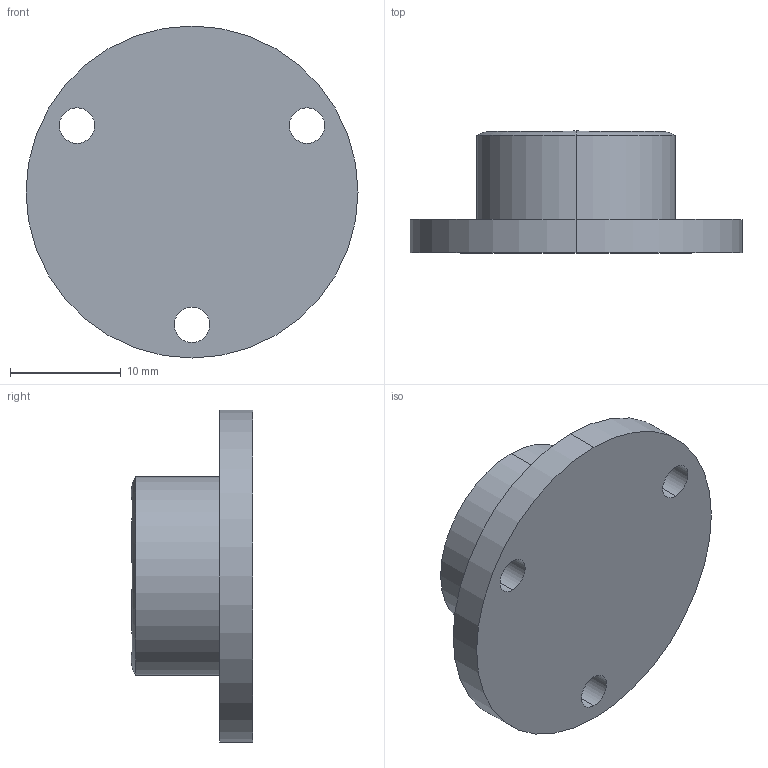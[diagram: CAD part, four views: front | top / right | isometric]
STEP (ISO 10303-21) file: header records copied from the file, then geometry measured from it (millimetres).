
FILE_DESCRIPTION (( 'STEP AP214' ), '1' );
FILE_NAME ('2277-ALN-30-K-30-A.step', '2020-03-26T08:33:02', ( '' ), ( '' ), 'SwSTEP 2.0', 'SolidWorks 2019', '' );
FILE_SCHEMA (( 'AUTOMOTIVE_DESIGN' ));
Length unit declared in the file: millimetre
Products named in the file (1): 2277-ALN-30-K-30-A
Bounding box: 30 x 11 x 30 mm (x, y, z)
Volume: 3952.3 mm3; surface area: 2198 mm2
Topology: 1 solids, 1 shells, 23 faces, 50 edges, 32 vertices
Faces by surface type: cylinder 16, plane 5, torus 2
Entity records: 714 total; most frequent: DIRECTION 132, CARTESIAN_POINT 106, ORIENTED_EDGE 100, AXIS2_PLACEMENT_3D 58, EDGE_CURVE 50, CIRCLE 34, EDGE_LOOP 32, VERTEX_POINT 32
